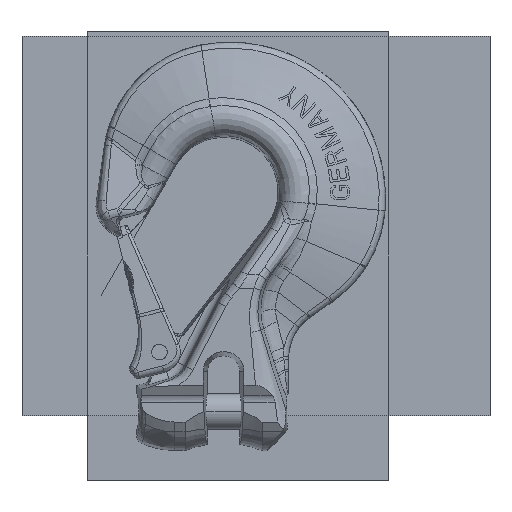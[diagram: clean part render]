
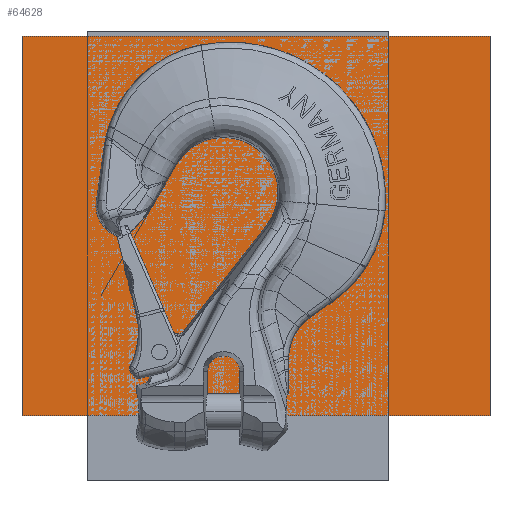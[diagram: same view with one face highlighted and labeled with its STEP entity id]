
A CAD part, front view. The second image highlights one B-rep face of the part: STEP entity #64628.
In plain terms, the highlighted planar face has unit normal (0, 0, 1) by its records, which use the part's own axes.
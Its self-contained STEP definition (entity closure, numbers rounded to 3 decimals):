
#64577=DIRECTION('',(0.,1.,0.));
#64578=VECTOR('',#64577,292.757);
#64579=CARTESIAN_POINT('',(-155.474,-120.132,0.));
#64580=LINE('5182',#64579,#64578);
#64584=DIRECTION('',(1.,0.,0.));
#64585=VECTOR('',#64584,360.915);
#64586=CARTESIAN_POINT('',(-155.474,172.625,0.));
#64587=LINE('5185',#64586,#64585);
#64591=DIRECTION('',(0.,-1.,0.));
#64592=VECTOR('',#64591,292.757);
#64593=CARTESIAN_POINT('',(205.441,172.625,0.));
#64594=LINE('5184',#64593,#64592);
#64598=DIRECTION('',(-1.,0.,0.));
#64599=VECTOR('',#64598,360.915);
#64600=CARTESIAN_POINT('',(205.441,-120.132,0.));
#64601=LINE('5183',#64600,#64599);
#64605=CARTESIAN_POINT('',(-155.474,172.625,0.));
#64606=CARTESIAN_POINT('',(-155.474,-120.132,0.));
#64607=VERTEX_POINT('',#64605);
#64608=VERTEX_POINT('',#64606);
#64609=CARTESIAN_POINT('',(205.441,-120.132,0.));
#64610=VERTEX_POINT('',#64609);
#64611=CARTESIAN_POINT('',(205.441,172.625,0.));
#64612=VERTEX_POINT('',#64611);
#64613=CARTESIAN_POINT('',(0.,0.,0.));
#64614=DIRECTION('',(0.,0.,1.));
#64615=DIRECTION('',(1.,0.,0.));
#64616=AXIS2_PLACEMENT_3D('',#64613,#64614,#64615);
#64617=PLANE('5181',#64616);
#64619=ORIENTED_EDGE('5182',*,*,#64618,.T.);
#64621=ORIENTED_EDGE('5185',*,*,#64620,.T.);
#64623=ORIENTED_EDGE('5184',*,*,#64622,.T.);
#64625=ORIENTED_EDGE('5183',*,*,#64624,.T.);
#64626=EDGE_LOOP('5181',(#64619,#64621,#64623,#64625));
#64627=FACE_OUTER_BOUND('5181',#64626,.F.);
#64618=EDGE_CURVE('5182',#64608,#64607,#64580,.T.);
#64620=EDGE_CURVE('5185',#64607,#64612,#64587,.T.);
#64622=EDGE_CURVE('5184',#64612,#64610,#64594,.T.);
#64624=EDGE_CURVE('5183',#64610,#64608,#64601,.T.);
#64628=ADVANCED_FACE('5181',(#64627),#64617,.T.);
